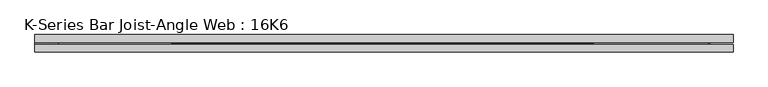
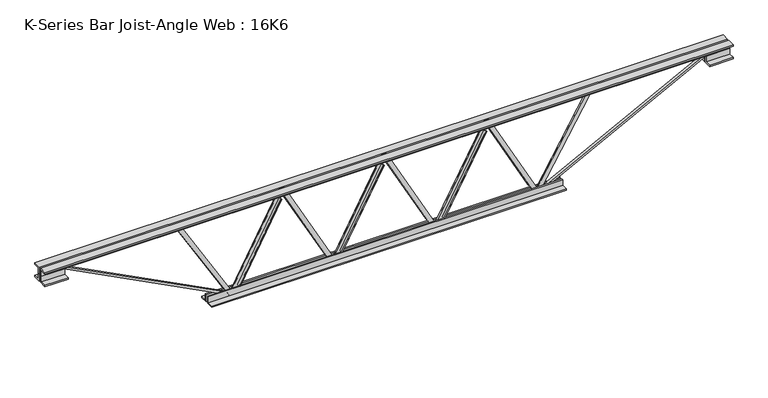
"""IFC4 building model written with IfcOpenShell, lengths in millimetres: beam geometry, K-Series Bar Joist-Angle Web : 16K6."""

from ifc_helpers import new_model, si_unit, frame, origin, place, context, project, spatial, polyline, outline, extrude, faceted_brep, source, transform, mapped, element, save


def k_series_bar_joist_angle_web_16k6_e3162b16(model_context):
    return source(origin(), model_context, "Body", "SolidModel", [
        extrude(outline(polyline([(-4.75, 4.7625), (-4.75, 0.0), (-17.45, 0.0), (-17.45, 4.7625), (-4.75, 4.7625)])), frame((187.1265842, 0.0, -164.9), z_axis=(-0.4747478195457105, 0.0, 0.8801218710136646), x_axis=(0.0, -1.0, 0.0)), (0.0, 0.0, 1.0), 374.7208323),
        extrude(outline(polyline([(-199.825, 218.0), (-180.775, 218.0), (-180.775, 217.3344707), (199.825, 12.0344707), (199.825, -6.35), (180.775, -6.35), (180.775, 0.6655293), (-199.825, 205.9655293), (-199.825, 218.0)])), frame((0.0, 0.0, 0.0), z_axis=(0.0, 1.0, 0.0), x_axis=(0.0, 0.0, 1.0)), (0.0, 0.0, 1.0), 4.75),
        faceted_brep([(-218.0, 0.0, -180.775), (-218.0, 0.0, -199.825), (-218.0, -4.75, -199.825), (-218.0, -4.75, -180.775), (-217.3344707, 0.0, -180.775), (-12.0344707, 0.0, 199.825), (6.35, 0.0, 199.825), (6.35, 0.0, 180.775), (-0.6655293, 0.0, 180.775), (-205.9655293, 0.0, -199.825), (-205.9655293, -4.75, -199.825), (-187.1265842, -4.75, -164.9), (-191.3181646, -4.75, -162.6390135), (-13.4202665, -4.75, 167.1609865), (-9.2286861, -4.75, 164.9), (-0.6655293, -4.75, 180.775), (6.35, -4.75, 180.775), (6.35, -4.75, 199.825), (-12.0344707, -4.75, 199.825), (-217.3344707, -4.75, -180.775), (-9.2286861, -17.4625, 164.9), (-187.1265842, -17.4625, -164.9), (-191.3181646, -17.4625, -162.6390135), (-13.4202665, -17.4625, 167.1609865)], [[[0, 1, 2, 3]], [[1, 0, 4, 5, 6, 7, 8, 9]], [[2, 1, 9, 10]], [[3, 2, 10, 11, 12, 13, 14, 15, 16, 17, 18, 19]], [[0, 3, 19, 4]], [[9, 8, 15, 14, 20, 21, 11, 10]], [[5, 4, 19, 18]], [[7, 6, 17, 16]], [[8, 7, 16, 15]], [[6, 5, 18, 17]], [[21, 22, 12, 11]], [[20, 14, 13, 23]], [[22, 21, 20, 23]], [[12, 22, 23, 13]]]),
        extrude(outline(polyline([(-4.75, 4.7625), (-4.75, 0.0), (-17.45, 0.0), (-17.45, 4.7625), (-4.75, 4.7625)])), frame((623.6265842, 0.0, -164.9), z_axis=(-0.4747478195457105, 0.0, 0.8801218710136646), x_axis=(0.0, -1.0, 0.0)), (0.0, 0.0, 1.0), 374.7208323),
        extrude(outline(polyline([(-199.825, 654.5), (-180.775, 654.5), (-180.775, 653.8344707), (199.825, 448.5344707), (199.825, 430.15), (180.775, 430.15), (180.775, 437.1655293), (-199.825, 642.4655293), (-199.825, 654.5)])), frame((0.0, 0.0, 0.0), z_axis=(0.0, 1.0, 0.0), x_axis=(0.0, 0.0, 1.0)), (0.0, 0.0, 1.0), 4.75),
        faceted_brep([(218.5, 0.0, -180.775), (218.5, 0.0, -199.825), (218.5, -4.75, -199.825), (218.5, -4.75, -180.775), (219.1655293, 0.0, -180.775), (424.4655293, 0.0, 199.825), (442.85, 0.0, 199.825), (442.85, 0.0, 180.775), (435.8344707, 0.0, 180.775), (230.5344707, 0.0, -199.825), (230.5344707, -4.75, -199.825), (249.3734158, -4.75, -164.9), (245.1818354, -4.75, -162.6390135), (423.0797335, -4.75, 167.1609865), (427.2713139, -4.75, 164.9), (435.8344707, -4.75, 180.775), (442.85, -4.75, 180.775), (442.85, -4.75, 199.825), (424.4655293, -4.75, 199.825), (219.1655293, -4.75, -180.775), (427.2713139, -17.4625, 164.9), (249.3734158, -17.4625, -164.9), (245.1818354, -17.4625, -162.6390135), (423.0797335, -17.4625, 167.1609865)], [[[0, 1, 2, 3]], [[1, 0, 4, 5, 6, 7, 8, 9]], [[2, 1, 9, 10]], [[3, 2, 10, 11, 12, 13, 14, 15, 16, 17, 18, 19]], [[0, 3, 19, 4]], [[9, 8, 15, 14, 20, 21, 11, 10]], [[5, 4, 19, 18]], [[7, 6, 17, 16]], [[8, 7, 16, 15]], [[6, 5, 18, 17]], [[21, 22, 12, 11]], [[20, 14, 13, 23]], [[22, 21, 20, 23]], [[12, 22, 23, 13]]]),
        extrude(outline(polyline([(-4.75, 4.7625), (-4.75, 0.0), (-17.45, 0.0), (-17.45, 4.7625), (-4.75, 4.7625)])), frame((-249.3734158, 0.0, -164.9), z_axis=(-0.4747478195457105, 0.0, 0.8801218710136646), x_axis=(0.0, -1.0, 0.0)), (0.0, 0.0, 1.0), 374.7208323),
        extrude(outline(polyline([(-199.825, -218.5), (-180.775, -218.5), (-180.775, -219.1655293), (199.825, -424.4655293), (199.825, -442.85), (180.775, -442.85), (180.775, -435.8344707), (-199.825, -230.5344707), (-199.825, -218.5)])), frame((0.0, 0.0, 0.0), z_axis=(0.0, 1.0, 0.0), x_axis=(0.0, 0.0, 1.0)), (0.0, 0.0, 1.0), 4.75),
        faceted_brep([(-654.5, 0.0, -180.775), (-654.5, 0.0, -199.825), (-654.5, -4.75, -199.825), (-654.5, -4.75, -180.775), (-653.8344707, 0.0, -180.775), (-448.5344707, 0.0, 199.825), (-430.15, 0.0, 199.825), (-430.15, 0.0, 180.775), (-437.1655293, 0.0, 180.775), (-642.4655293, 0.0, -199.825), (-642.4655293, -4.75, -199.825), (-623.6265842, -4.75, -164.9), (-627.8181646, -4.75, -162.6390135), (-449.9202665, -4.75, 167.1609865), (-445.7286861, -4.75, 164.9), (-437.1655293, -4.75, 180.775), (-430.15, -4.75, 180.775), (-430.15, -4.75, 199.825), (-448.5344707, -4.75, 199.825), (-653.8344707, -4.75, -180.775), (-445.7286861, -17.4625, 164.9), (-623.6265842, -17.4625, -164.9), (-627.8181646, -17.4625, -162.6390135), (-449.9202665, -17.4625, 167.1609865)], [[[0, 1, 2, 3]], [[1, 0, 4, 5, 6, 7, 8, 9]], [[2, 1, 9, 10]], [[3, 2, 10, 11, 12, 13, 14, 15, 16, 17, 18, 19]], [[0, 3, 19, 4]], [[9, 8, 15, 14, 20, 21, 11, 10]], [[5, 4, 19, 18]], [[7, 6, 17, 16]], [[8, 7, 16, 15]], [[6, 5, 18, 17]], [[21, 22, 12, 11]], [[20, 14, 13, 23]], [[22, 21, 20, 23]], [[12, 22, 23, 13]]]),
        extrude(outline(polyline([(4.75, 203.0), (36.75, 203.0), (36.75, 196.5), (11.25, 196.5), (11.25, 171.0), (4.75, 171.0), (4.75, 203.0)])), frame((-1466.5, 0.0, 0.0), z_axis=(1.0, 0.0, 0.0), x_axis=(0.0, 1.0, 0.0)), (0.0, 0.0, 1.0), 2933.0),
        extrude(outline(polyline([(-4.75, 203.0), (-4.75, 171.0), (-11.25, 171.0), (-11.25, 196.5), (-36.75, 196.5), (-36.75, 203.0), (-4.75, 203.0)])), frame((-1466.5, 0.0, 0.0), z_axis=(1.0, 0.0, 0.0), x_axis=(0.0, 1.0, 0.0)), (0.0, 0.0, 1.0), 2933.0),
        extrude(outline(polyline([(4.75, -203.0), (4.75, -171.0), (11.25, -171.0), (11.25, -196.5), (36.75, -196.5), (36.75, -203.0), (4.75, -203.0)])), frame((-754.5, 0.0, 0.0), z_axis=(1.0, 0.0, 0.0), x_axis=(0.0, 1.0, 0.0)), (0.0, 0.0, 1.0), 1509.0),
        extrude(outline(polyline([(-4.75, -203.0), (-36.75, -203.0), (-36.75, -196.5), (-11.25, -196.5), (-11.25, -171.0), (-4.75, -171.0), (-4.75, -203.0)])), frame((-754.5, 0.0, 0.0), z_axis=(1.0, 0.0, 0.0), x_axis=(0.0, 1.0, 0.0)), (0.0, 0.0, 1.0), 1509.0),
        extrude(outline(polyline([(4.75, 139.5), (4.75, 171.0), (11.25, 171.0), (11.25, 146.0), (36.75, 146.0), (36.75, 139.5), (4.75, 139.5)])), frame((1366.5, 0.0, 0.0), z_axis=(1.0, 0.0, 0.0), x_axis=(0.0, 1.0, 0.0)), (0.0, 0.0, 1.0), 100.0),
        extrude(outline(polyline([(-4.75, 139.5), (-36.75, 139.5), (-36.75, 146.0), (-11.25, 146.0), (-11.25, 171.0), (-4.75, 171.0), (-4.75, 139.5)])), frame((1366.5, 0.0, 0.0), z_axis=(1.0, 0.0, 0.0), x_axis=(0.0, 1.0, 0.0)), (0.0, 0.0, 1.0), 100.0),
        extrude(outline(polyline([(-4.75, 139.5), (-36.75, 139.5), (-36.75, 146.0), (-11.25, 146.0), (-11.25, 171.0), (-4.75, 171.0), (-4.75, 139.5)])), frame((-1466.5, 0.0, 0.0), z_axis=(1.0, 0.0, 0.0), x_axis=(0.0, 1.0, 0.0)), (0.0, 0.0, 1.0), 100.0),
        extrude(outline(polyline([(36.75, 139.5), (4.75, 139.5), (4.75, 171.0), (11.25, 171.0), (11.25, 146.0), (36.75, 146.0), (36.75, 139.5)])), frame((-1466.5, 0.0, 0.0), z_axis=(1.0, 0.0, 0.0), x_axis=(0.0, 1.0, 0.0)), (0.0, 0.0, 1.0), 100.0),
        extrude(outline(polyline([(193.9566712, -892.4571429), (174.9066712, -892.4571429), (174.9066712, -884.9133731), (-201.2560181, -662.2824413), (-191.5533249, -645.8885326), (193.9566712, -874.0516441), (193.9566712, -892.4571429)])), frame((0.0, 0.0, 0.0), z_axis=(0.0, 1.0, 0.0), x_axis=(0.0, 0.0, 1.0)), (0.0, 0.0, 1.0), 4.7625),
        extrude(outline(polyline([(-4.7625, -10.5646146), (-4.7625, 8.4853853), (0.0, 8.4853853), (0.0, -10.5646146), (-4.7625, -10.5646146)])), frame((654.5, 0.0, -196.65), z_axis=(0.5100332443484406, 0.0, 0.860154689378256), x_axis=(0.0, -1.0, 0.0)), (0.0, 0.0, 1.0), 427.4231188),
        extrude(outline(polyline([(-200.8705467, -656.6793315), (-192.4294533, -652.3206685), (175.75, -1365.3460208), (175.75, -1466.5), (166.25, -1466.5), (166.25, -1367.6539792), (-200.8705467, -656.6793315)])), frame((0.0, -4.75, 0.0), z_axis=(0.0, 1.0, 0.0), x_axis=(0.0, 0.0, 1.0)), (0.0, 0.0, 1.0), 9.5),
        extrude(outline(polyline([(0.0, -9.5), (0.0, 0.0), (801.3179909, 0.0), (801.3179909, -9.5), (0.0, -9.5)])), frame((1368.6793315, -4.75, 166.7794533), z_axis=(-0.4588066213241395, 0.0, 0.888536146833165), x_axis=(-0.888536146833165, 0.0, -0.4588066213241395)), (0.0, 0.0, 1.0), 9.5),
    ])


if __name__ == "__main__":
    model = new_model("IFC4")
    model_context = context("Model", 3, world=origin())
    ifc_project = project(units=[si_unit("LENGTHUNIT", "METRE", prefix="MILLI")], contexts=[model_context])
    site = spatial("IfcSite", under=ifc_project)
    building = spatial("IfcBuilding", under=site)
    placement = place(None, origin())
    k_series_bar_joist_angle_web_16k6_shape = k_series_bar_joist_angle_web_16k6_e3162b16(model_context)
    element("IfcBeam", 1, ObjectType="K-Series Bar Joist-Angle Web : 16K6", at=placement, inside=building, context=model_context, shape_type="MappedRepresentation", body=[
        mapped(k_series_bar_joist_angle_web_16k6_shape, transform((0.0, 0.0, 0.0), x_axis=(1.0, 0.0, 0.0), y_axis=(0.0, 1.0, 0.0), z_axis=(0.0, 0.0, 1.0))),
    ])
    save(model, "model.ifc")
